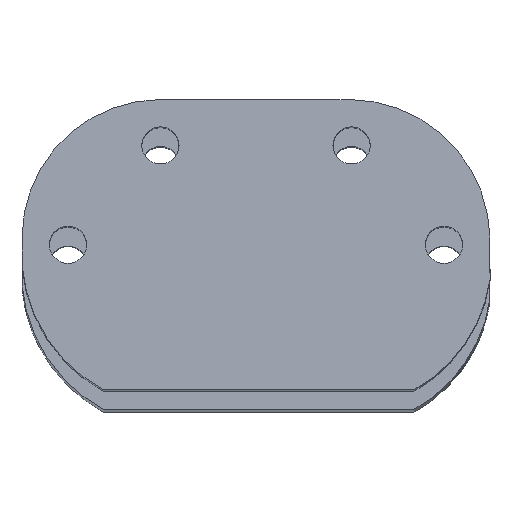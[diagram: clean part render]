
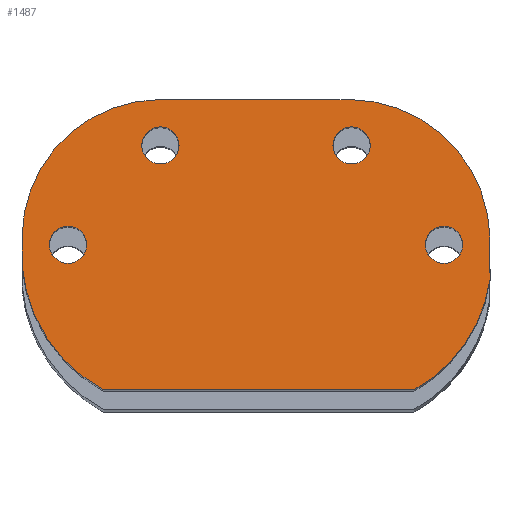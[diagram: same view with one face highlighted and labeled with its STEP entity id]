
A CAD part, top view. The second image highlights one B-rep face of the part: STEP entity #1487.
In plain terms, the highlighted planar face has unit normal (0, 0.083, 0.997).
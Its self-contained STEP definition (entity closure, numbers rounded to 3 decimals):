
#20 = DIRECTION ( 'NONE',  ( 0., 0.997, -0.083 ) ) ;
#35 = CARTESIAN_POINT ( 'NONE',  ( 87.885, -11.789, 13.012 ) ) ;
#39 = ORIENTED_EDGE ( 'NONE', *, *, #2773, .T. ) ;
#47 = EDGE_CURVE ( 'NONE', #871, #871, #410, .T. ) ;
#59 = CARTESIAN_POINT ( 'NONE',  ( 112.164, -11.357, 12.976 ) ) ;
#70 = CARTESIAN_POINT ( 'NONE',  ( 88.414, 1.354, 11.917 ) ) ;
#96 = DIRECTION ( 'NONE',  ( 0., 0.083, 0.997 ) ) ;
#127 = CARTESIAN_POINT ( 'NONE',  ( 112.164, 12.405, 10.996 ) ) ;
#134 = CARTESIAN_POINT ( 'NONE',  ( 88.319, 12.405, 10.996 ) ) ;
#152 = CARTESIAN_POINT ( 'NONE',  ( 112.164, 12.405, 10.996 ) ) ;
#155 = ORIENTED_EDGE ( 'NONE', *, *, #625, .F. ) ;
#176 = EDGE_CURVE ( 'NONE', #1465, #2574, #1078, .T. ) ;
#185 = DIRECTION ( 'NONE',  ( 0., -0.997, 0.083 ) ) ;
#223 = DIRECTION ( 'NONE',  ( 0., -0.083, -0.997 ) ) ;
#263 = DIRECTION ( 'NONE',  ( 0., 0.997, -0.083 ) ) ;
#290 = EDGE_CURVE ( 'NONE', #2418, #1475, #1459, .T. ) ;
#305 = DIRECTION ( 'NONE',  ( 0., -0.083, -0.997 ) ) ;
#313 = CARTESIAN_POINT ( 'NONE',  ( 31.864, -11.101, 12.955 ) ) ;
#315 = CARTESIAN_POINT ( 'NONE',  ( 58.69, -13.837, 13.183 ) ) ;
#326 = FACE_OUTER_BOUND ( 'NONE', #2953, .T. ) ;
#383 = EDGE_CURVE ( 'NONE', #2574, #1444, #1795, .T. ) ;
#410 = CIRCLE ( 'NONE', #1694, 3.2 ) ;
#435 = DIRECTION ( 'NONE',  ( 1., 0., 0. ) ) ;
#476 = CARTESIAN_POINT ( 'NONE',  ( 39.764, -12.508, 13.072 ) ) ;
#504 = CARTESIAN_POINT ( 'NONE',  ( 104.264, -15.697, 13.338 ) ) ;
#511 = ORIENTED_EDGE ( 'NONE', *, *, #1772, .F. ) ;
#515 = ORIENTED_EDGE ( 'NONE', *, *, #1263, .F. ) ;
#570 = CARTESIAN_POINT ( 'NONE',  ( 55.452, 12.405, 10.996 ) ) ;
#590 = DIRECTION ( 'NONE',  ( 0., -0.083, -0.997 ) ) ;
#598 = DIRECTION ( 'NONE',  ( 1., 0., 0. ) ) ;
#625 = EDGE_CURVE ( 'NONE', #715, #715, #2088, .T. ) ;
#648 = AXIS2_PLACEMENT_3D ( 'NONE', #35, #1025, #963 ) ;
#689 = CARTESIAN_POINT ( 'NONE',  ( 45.864, -37.422, 15.148 ) ) ;
#715 = VERTEX_POINT ( 'NONE', #504 ) ;
#716 = EDGE_CURVE ( 'NONE', #1360, #1156, #1799, .T. ) ;
#717 = CARTESIAN_POINT ( 'NONE',  ( 88.414, 4.543, 11.651 ) ) ;
#724 = ORIENTED_EDGE ( 'NONE', *, *, #290, .F. ) ;
#740 = ORIENTED_EDGE ( 'NONE', *, *, #1313, .T. ) ;
#743 = CARTESIAN_POINT ( 'NONE',  ( 39.764, -15.697, 13.338 ) ) ;
#790 = CARTESIAN_POINT ( 'NONE',  ( 99.107, -37.422, 15.148 ) ) ;
#801 = CIRCLE ( 'NONE', #1275, 23.846 ) ;
#816 = LINE ( 'NONE', #2632, #1272 ) ;
#853 = DIRECTION ( 'NONE',  ( 0., -0.997, 0.083 ) ) ;
#871 = VERTEX_POINT ( 'NONE', #2479 ) ;
#940 = VERTEX_POINT ( 'NONE', #743 ) ;
#963 = DIRECTION ( 'NONE',  ( 0., 0.997, -0.083 ) ) ;
#1025 = DIRECTION ( 'NONE',  ( 0., -0.083, -0.997 ) ) ;
#1078 = LINE ( 'NONE', #1992, #2425 ) ;
#1104 = EDGE_LOOP ( 'NONE', ( #1450 ) ) ;
#1150 = DIRECTION ( 'NONE',  ( 0., 0.083, 0.997 ) ) ;
#1156 = VERTEX_POINT ( 'NONE', #2066 ) ;
#1193 = CARTESIAN_POINT ( 'NONE',  ( 55.708, -11.357, 12.976 ) ) ;
#1221 = AXIS2_PLACEMENT_3D ( 'NONE', #2751, #2562, #1649 ) ;
#1235 = CIRCLE ( 'NONE', #1525, 3.2 ) ;
#1237 = CARTESIAN_POINT ( 'NONE',  ( 31.864, 12.405, 10.996 ) ) ;
#1263 = EDGE_CURVE ( 'NONE', #1444, #2418, #2215, .T. ) ;
#1272 = VECTOR ( 'NONE', #435, 1000. ) ;
#1275 = AXIS2_PLACEMENT_3D ( 'NONE', #1193, #2525, #263 ) ;
#1313 = EDGE_CURVE ( 'NONE', #1360, #1475, #816, .T. ) ;
#1325 = VECTOR ( 'NONE', #2109, 1000. ) ;
#1360 = VERTEX_POINT ( 'NONE', #689 ) ;
#1444 = VERTEX_POINT ( 'NONE', #59 ) ;
#1448 = FACE_BOUND ( 'NONE', #1571, .T. ) ;
#1450 = ORIENTED_EDGE ( 'NONE', *, *, #1867, .F. ) ;
#1459 = CIRCLE ( 'NONE', #1553, 25.889 ) ;
#1465 = VERTEX_POINT ( 'NONE', #570 ) ;
#1475 = VERTEX_POINT ( 'NONE', #790 ) ;
#1482 = DIRECTION ( 'NONE',  ( 0., -0.997, 0.083 ) ) ;
#1487 = ADVANCED_FACE ( 'NONE', ( #2812, #2863, #1448, #1715, #326 ), #2173, .F. ) ;
#1525 = AXIS2_PLACEMENT_3D ( 'NONE', #476, #2268, #185 ) ;
#1553 = AXIS2_PLACEMENT_3D ( 'NONE', #2024, #223, #20 ) ;
#1571 = EDGE_LOOP ( 'NONE', ( #155 ) ) ;
#1644 = CARTESIAN_POINT ( 'NONE',  ( 55.614, 4.543, 11.651 ) ) ;
#1649 = DIRECTION ( 'NONE',  ( 0., -0.997, 0.083 ) ) ;
#1651 = EDGE_LOOP ( 'NONE', ( #2494 ) ) ;
#1656 = AXIS2_PLACEMENT_3D ( 'NONE', #127, #305, #1683 ) ;
#1683 = DIRECTION ( 'NONE',  ( 0., 0.997, -0.083 ) ) ;
#1694 = AXIS2_PLACEMENT_3D ( 'NONE', #1644, #96, #1482 ) ;
#1714 = EDGE_LOOP ( 'NONE', ( #2447 ) ) ;
#1715 = FACE_BOUND ( 'NONE', #1651, .T. ) ;
#1750 = VECTOR ( 'NONE', #853, 1000. ) ;
#1772 = EDGE_CURVE ( 'NONE', #2322, #1465, #801, .T. ) ;
#1795 = CIRCLE ( 'NONE', #648, 24.282 ) ;
#1799 = CIRCLE ( 'NONE', #2892, 26.919 ) ;
#1867 = EDGE_CURVE ( 'NONE', #2589, #2589, #1898, .T. ) ;
#1898 = CIRCLE ( 'NONE', #2140, 3.2 ) ;
#1992 = CARTESIAN_POINT ( 'NONE',  ( 112.164, 12.405, 10.996 ) ) ;
#2024 = CARTESIAN_POINT ( 'NONE',  ( 86.517, -14.879, 13.27 ) ) ;
#2066 = CARTESIAN_POINT ( 'NONE',  ( 31.864, -16.061, 13.368 ) ) ;
#2088 = CIRCLE ( 'NONE', #1221, 3.2 ) ;
#2094 = LINE ( 'NONE', #1237, #1325 ) ;
#2109 = DIRECTION ( 'NONE',  ( 0., -0.997, 0.083 ) ) ;
#2140 = AXIS2_PLACEMENT_3D ( 'NONE', #717, #1150, #2768 ) ;
#2173 = PLANE ( 'NONE',  #1656 ) ;
#2215 = LINE ( 'NONE', #152, #1750 ) ;
#2245 = ORIENTED_EDGE ( 'NONE', *, *, #383, .F. ) ;
#2268 = DIRECTION ( 'NONE',  ( 0., 0.083, 0.997 ) ) ;
#2322 = VERTEX_POINT ( 'NONE', #313 ) ;
#2391 = DIRECTION ( 'NONE',  ( 0., 0.997, -0.083 ) ) ;
#2418 = VERTEX_POINT ( 'NONE', #2533 ) ;
#2425 = VECTOR ( 'NONE', #598, 1000. ) ;
#2447 = ORIENTED_EDGE ( 'NONE', *, *, #47, .F. ) ;
#2479 = CARTESIAN_POINT ( 'NONE',  ( 55.614, 1.354, 11.917 ) ) ;
#2480 = ORIENTED_EDGE ( 'NONE', *, *, #176, .F. ) ;
#2494 = ORIENTED_EDGE ( 'NONE', *, *, #2867, .F. ) ;
#2525 = DIRECTION ( 'NONE',  ( 0., -0.083, -0.997 ) ) ;
#2533 = CARTESIAN_POINT ( 'NONE',  ( 112.164, -18.4, 13.563 ) ) ;
#2562 = DIRECTION ( 'NONE',  ( 0., 0.083, 0.997 ) ) ;
#2574 = VERTEX_POINT ( 'NONE', #134 ) ;
#2589 = VERTEX_POINT ( 'NONE', #70 ) ;
#2632 = CARTESIAN_POINT ( 'NONE',  ( 112.164, -37.422, 15.148 ) ) ;
#2666 = ORIENTED_EDGE ( 'NONE', *, *, #716, .F. ) ;
#2751 = CARTESIAN_POINT ( 'NONE',  ( 104.264, -12.508, 13.072 ) ) ;
#2768 = DIRECTION ( 'NONE',  ( 0., -0.997, 0.083 ) ) ;
#2773 = EDGE_CURVE ( 'NONE', #2322, #1156, #2094, .T. ) ;
#2812 = FACE_BOUND ( 'NONE', #1104, .T. ) ;
#2863 = FACE_BOUND ( 'NONE', #1714, .T. ) ;
#2867 = EDGE_CURVE ( 'NONE', #940, #940, #1235, .T. ) ;
#2892 = AXIS2_PLACEMENT_3D ( 'NONE', #315, #590, #2391 ) ;
#2953 = EDGE_LOOP ( 'NONE', ( #39, #2666, #740, #724, #515, #2245, #2480, #511 ) ) ;
